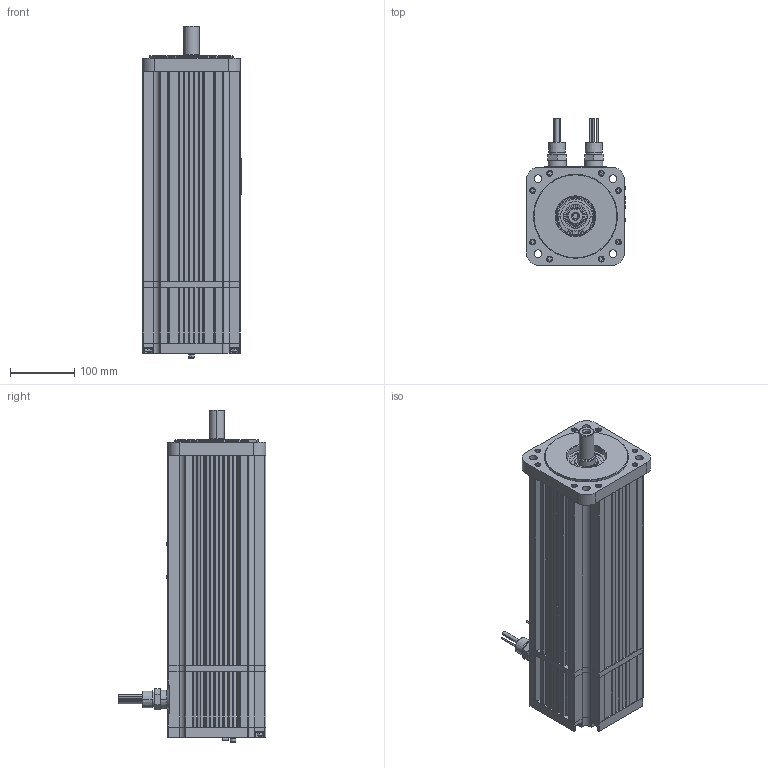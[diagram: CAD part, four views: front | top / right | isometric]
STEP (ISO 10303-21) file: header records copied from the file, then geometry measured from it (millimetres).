
FILE_DESCRIPTION (( 'STEP AP203' ), '1' );
FILE_NAME ('M465-GNS0-9T08.STEP', '2010-08-17T18:49:01', ( '' ), ( '' ), 'SwSTEP 2.0', 'SolidWorks 2010', '' );
FILE_SCHEMA (( 'CONFIG_CONTROL_DESIGN' ));
Length unit declared in the file: inch
Products named in the file (1): M465-GNS0-9T08
Bounding box: 154.08 x 229.36 x 516.4 mm (x, y, z)
Surface area: 432050.7 mm2 (no closed solid volume)
Topology: 0 solids, 105 shells, 1055 faces, 4431 edges, 3488 vertices
Faces by surface type: plane 536, cylinder 393, cone 65, bspline 40, torus 21
Entity records: 53549 total; most frequent: CARTESIAN_POINT 18101, DIRECTION 7063, ORIENTED_EDGE 6211, EDGE_CURVE 4431, VERTEX_POINT 3488, VECTOR 2871, LINE 2871, AXIS2_PLACEMENT_3D 2096
